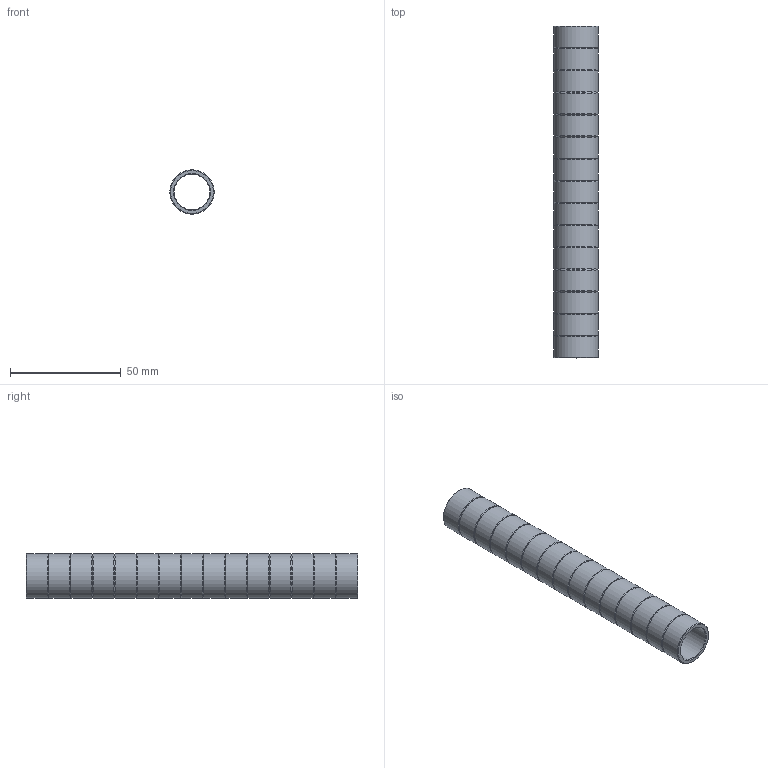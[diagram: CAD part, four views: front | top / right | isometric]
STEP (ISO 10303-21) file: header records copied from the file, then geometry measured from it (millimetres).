
FILE_DESCRIPTION(/* description */ ('Extension Tube'),/* implementation_level */ '2;1');
FILE_NAME(/* name */ 'ET-20-150.STEP',/* time_stamp */ '2026-02-10T14:40:06-05:00',/* author */ ('Design2'),/* organization */ ('CCS Design LLC'),/* preprocessor_version */ 'ST-DEVELOPER v20',/* originating_system */ 'Autodesk Inventor 2025',/* authorisation */ '');
FILE_SCHEMA (('AUTOMOTIVE_DESIGN { 1 0 10303 214 3 1 1 }'));
Length unit declared in the file: inch
Products named in the file (1): ET-20-150
Bounding box: 20 x 150 x 20 mm (x, y, z)
Volume: 16876 mm3; surface area: 17358.5 mm2
Topology: 1 solids, 1 shells, 50 faces, 127 edges, 79 vertices
Faces by surface type: cone 32, cylinder 16, plane 2
Full cylindrical faces by diameter (mm): 16 x1, 20 x15
Entity records: 1583 total; most frequent: DIRECTION 308, CARTESIAN_POINT 257, ORIENTED_EDGE 254, AXIS2_PLACEMENT_3D 130, EDGE_CURVE 127, CIRCLE 79, VERTEX_POINT 79, EDGE_LOOP 52
